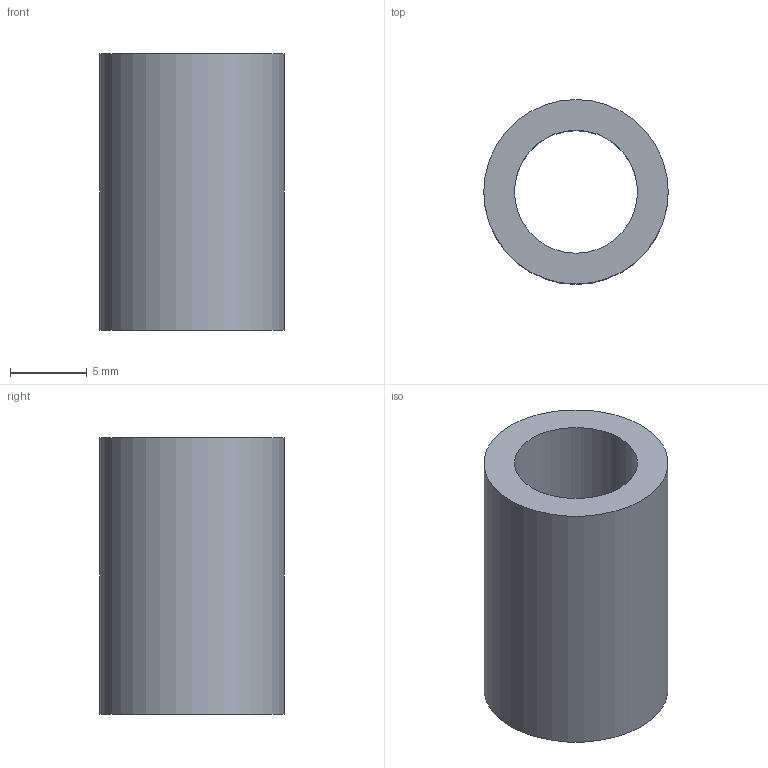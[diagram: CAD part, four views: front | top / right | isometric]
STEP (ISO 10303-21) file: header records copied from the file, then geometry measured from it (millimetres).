
FILE_DESCRIPTION(/* description */ (''),/* implementation_level */ '2;1');
FILE_NAME(/* name */ '',/* time_stamp */ '2024-04-08T11:16:06+09:00',/* author */ ('jhkim'),/* organization */ (''),/* preprocessor_version */ 'ST-DEVELOPER v20',/* originating_system */ 'Autodesk Inventor 2025',/* authorisation */ '');
FILE_SCHEMA (('AUTOMOTIVE_DESIGN { 1 0 10303 214 3 1 1 }'));
Length unit declared in the file: millimetre
Products named in the file (1): 칼라
Bounding box: 12 x 12 x 18 mm (x, y, z)
Volume: 1131 mm3; surface area: 1256.6 mm2
Topology: 1 solids, 1 shells, 4 faces, 6 edges, 4 vertices
Faces by surface type: cylinder 2, plane 2
Full cylindrical faces by diameter (mm): 8 x1, 12 x1
Entity records: 141 total; most frequent: DIRECTION 20, CARTESIAN_POINT 15, ORIENTED_EDGE 12, AXIS2_PLACEMENT_3D 9, EDGE_LOOP 6, EDGE_CURVE 6, FACE_OUTER_BOUND 4, CIRCLE 4
